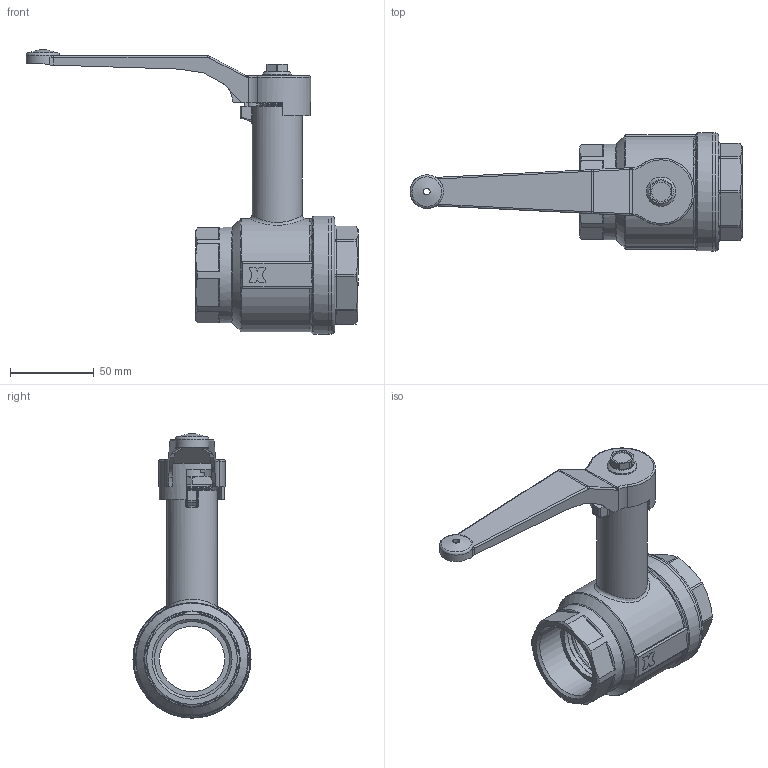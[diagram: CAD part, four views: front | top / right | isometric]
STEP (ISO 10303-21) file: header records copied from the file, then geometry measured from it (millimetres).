
FILE_DESCRIPTION(/* description */ ('Corpo prolunga femmina 1"1/2'),/* implementation_level */ '2;1');
FILE_NAME(/* name */ '\\dcidrosfer01\user$\ut4\Desktop\Traber Ticom 13-03-15\Valvola a sfera 112 art.109.stp',/* time_stamp */ '2015-03-13T14:15:03+01:00',/* author */ ('ut4'),/* organization */ (''),/* preprocessor_version */ 'ST-DEVELOPER v15.6',/* originating_system */ 'Autodesk Inventor 2015',/* authorisation */ '');
FILE_SCHEMA (('AUTOMOTIVE_DESIGN { 1 0 10303 214 3 1 1 }'));
Length unit declared in the file: millimetre
Products named in the file (13): Corpo prolunga femmina 112; Perno prolunga corto Ø19; Leva 4; Vite rond. inc. 8x12 DACRO; Sede 112; sfera 112; Manicotto femmina 112; Premistoppa prolunga 114 112; anello stoppa 23; O-ring 13.95 x 2.62; Rondella ottone prolunga 23; Tubetto prolunga 20 corto; Valvola a sfera 112 art.109
Assembly tree (14 placements, depth 2):
  Valvola a sfera 112 art.109
    Corpo prolunga femmina 112
    Perno prolunga corto Ø19
    Leva 4
    Vite rond. inc. 8x12 DACRO
    Sede 112  x2
    sfera 112
    Manicotto femmina 112
    Premistoppa prolunga 114 112
    anello stoppa 23
    O-ring 13.95 x 2.62
    Rondella ottone prolunga 23  x2
    Tubetto prolunga 20 corto
Bounding box: 198.35 x 70.5 x 169.83 mm (x, y, z)
Volume: 143098.5 mm3; surface area: 114730.6 mm2
Topology: 13 solids, 14 shells, 417 faces, 980 edges, 603 vertices
Faces by surface type: plane 168, cylinder 124, cone 75, torus 37, bspline 10, sphere 3
Full cylindrical faces by diameter (mm): 4 x1, 6.647 x1, 8 x1, 11.5 x1, 14.7 x1, 14.8 x2, 15 x1, 15.2 x1, 15.3 x1, 15.8 x2, 16 x3, 16.1 x1, 17.5 x2, 18 x1, 19 x2, 19.3 x1, 20 x2, 22.1 x1, 23 x3, 23.5 x1, 23.7 x1, 30 x1, 39 x3, 40 x2, 44.85 x1, 45 x1, 51 x4, 57 x1, 61.6 x1, 63 x1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
Entity records: 11939 total; most frequent: CARTESIAN_POINT 2862, DIRECTION 1932, ORIENTED_EDGE 1668, EDGE_CURVE 834, AXIS2_PLACEMENT_3D 807, VERTEX_POINT 568, EDGE_LOOP 544, FACE_OUTER_BOUND 403
